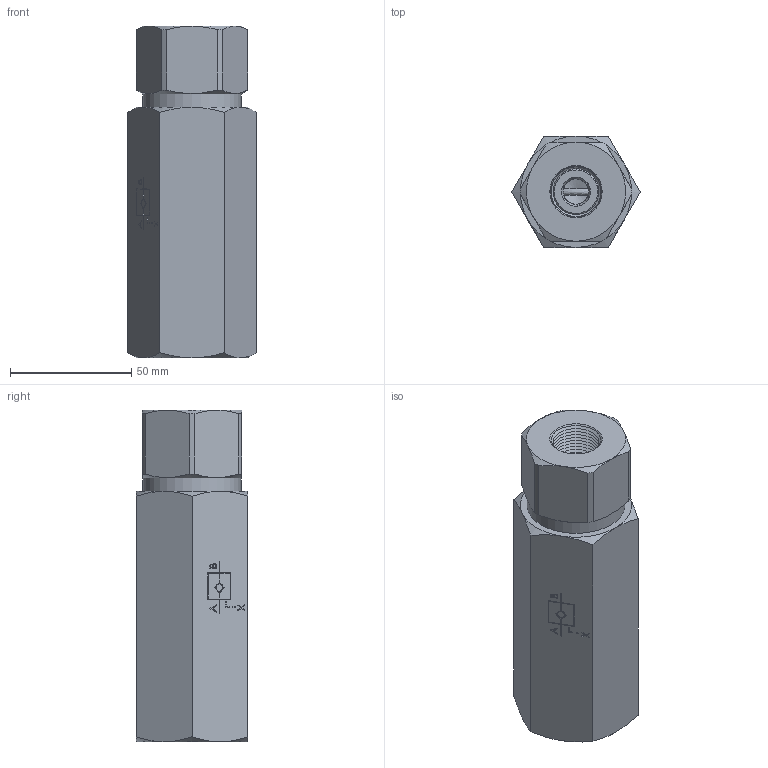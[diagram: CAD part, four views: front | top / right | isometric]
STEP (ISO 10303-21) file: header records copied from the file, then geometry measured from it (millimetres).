
FILE_DESCRIPTION (( 'STEP AP214' ), '1' );
FILE_NAME ('257-7-12.STEP', '2025-01-23T08:03:13', ( '' ), ( '' ), 'SwSTEP 2.0', 'SolidWorks 2024', '' );
FILE_SCHEMA (( 'AUTOMOTIVE_DESIGN' ));
Length unit declared in the file: millimetre
Products named in the file (9): VALVOLA TENUTA METALLICA 257-5.008.00.1-12; CORPO VALVOLA 257-7.001.00.0-12; CONNESSIONE UNIDIREZIONALE 257-7.033.00.0-12; MOLLA 4 BAR 257-6.009.00.0-12_COMPRESSA; VALVOLA UNIDIREZIONALE PILOTATA 257-7.041.00.0-12; 257-7-12; OR 3118; PISTONE PILOTAGGIO 257-7.019.00.1-12; FONDELLO FILETTATO 257-5.010.00.0-12
Assembly tree (8 placements, depth 3):
  257-7-12
    CORPO VALVOLA 257-7.001.00.0-12
    OR 3118
    PISTONE PILOTAGGIO 257-7.019.00.1-12
    VALVOLA UNIDIREZIONALE PILOTATA 257-7.041.00.0-12
      CONNESSIONE UNIDIREZIONALE 257-7.033.00.0-12
      FONDELLO FILETTATO 257-5.010.00.0-12
      VALVOLA TENUTA METALLICA 257-5.008.00.1-12
      MOLLA 4 BAR 257-6.009.00.0-12_COMPRESSA
Bounding box: 53.12 x 46 x 137 mm (x, y, z)
Volume: 200509.1 mm3; surface area: 61189.2 mm2
Topology: 7 solids, 7 shells, 632 faces, 1528 edges, 955 vertices
Faces by surface type: plane 284, cone 211, cylinder 79, bspline 55, torus 3
Full cylindrical faces by diameter (mm): 3.024 x1, 4 x6, 5.5 x1, 5.86 x4, 10.75 x1, 11 x2, 14 x1, 15.2 x3, 15.3 x1, 15.5 x1, 16 x5, 18 x4, 18.5 x6, 19 x2, 19.5 x1, 20.783 x4, 21.5 x1, 24.5 x1, 29.2 x3, 30 x6, 31 x3, 40.5 x1
Entity records: 22103 total; most frequent: CARTESIAN_POINT 8645, DIRECTION 2564, ORIENTED_EDGE 2482, EDGE_CURVE 1241, AXIS2_PLACEMENT_3D 956, EDGE_LOOP 946, VERTEX_POINT 909, FACE_OUTER_BOUND 693
